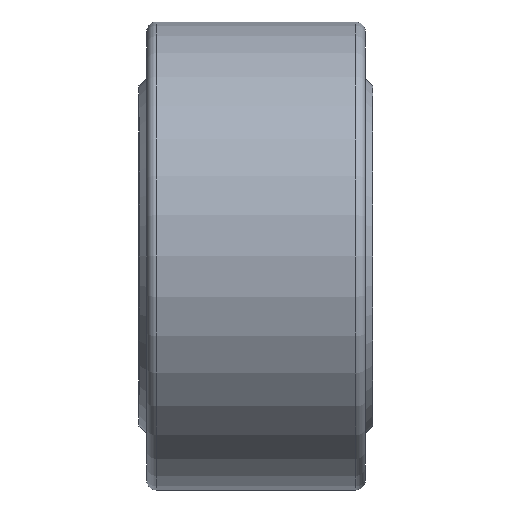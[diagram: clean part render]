
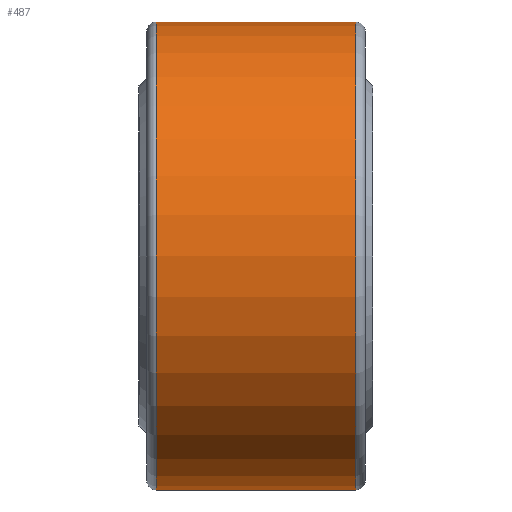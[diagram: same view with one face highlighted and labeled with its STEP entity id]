
A CAD part, front view. The second image highlights one B-rep face of the part: STEP entity #487.
In plain terms, the highlighted cylindrical face has radius 15 mm (diameter 30 mm), a full revolution.
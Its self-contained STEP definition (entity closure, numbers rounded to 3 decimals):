
#125=CYLINDRICAL_SURFACE('',#535,15.);
#141=FACE_BOUND('',#219,.T.);
#178=FACE_OUTER_BOUND('',#218,.T.);
#218=EDGE_LOOP('',(#408));
#219=EDGE_LOOP('',(#409));
#293=CIRCLE('',#534,15.);
#294=CIRCLE('',#536,15.);
#331=VERTEX_POINT('',#838);
#332=VERTEX_POINT('',#841);
#369=EDGE_CURVE('',#331,#331,#293,.T.);
#370=EDGE_CURVE('',#332,#332,#294,.T.);
#408=ORIENTED_EDGE('',*,*,#370,.F.);
#409=ORIENTED_EDGE('',*,*,#369,.F.);
#487=ADVANCED_FACE('',(#178,#141),#125,.T.);
#534=AXIS2_PLACEMENT_3D('',#839,#638,#639);
#535=AXIS2_PLACEMENT_3D('',#840,#640,#641);
#536=AXIS2_PLACEMENT_3D('',#842,#642,#643);
#638=DIRECTION('center_axis',(-1.,0.,0.));
#639=DIRECTION('ref_axis',(0.,-1.,0.));
#640=DIRECTION('center_axis',(1.,0.,0.));
#641=DIRECTION('ref_axis',(0.,1.,0.));
#642=DIRECTION('center_axis',(1.,0.,0.));
#643=DIRECTION('ref_axis',(0.,-1.,0.));
#838=CARTESIAN_POINT('',(-6.4,15.,0.));
#839=CARTESIAN_POINT('Origin',(-6.4,0.,0.));
#840=CARTESIAN_POINT('Origin',(0.,0.,
0.));
#841=CARTESIAN_POINT('',(6.4,15.,0.));
#842=CARTESIAN_POINT('Origin',(6.4,0.,0.));
